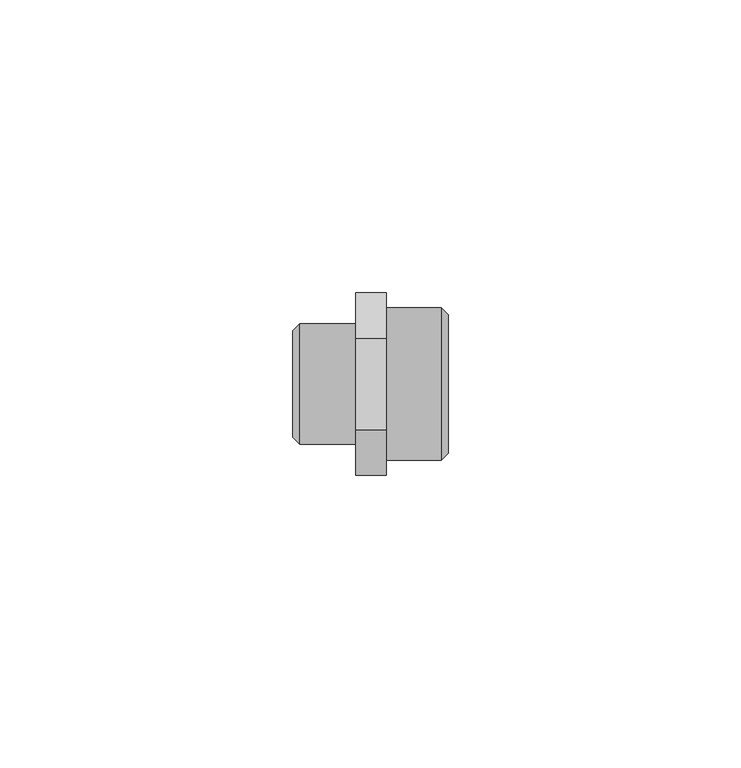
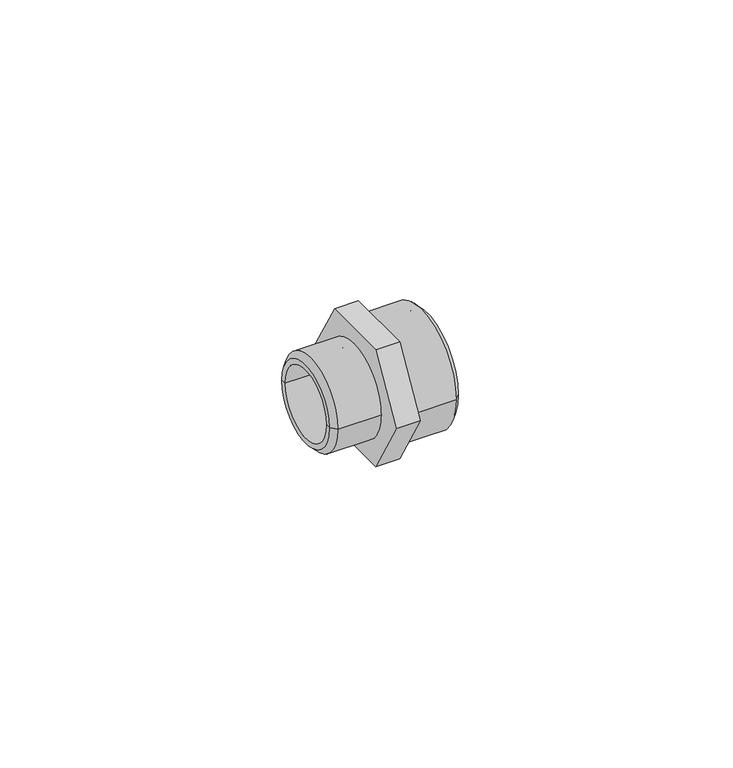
"""IFC4 building model written with IfcOpenShell, lengths in millimetres: pipe fitting geometry, Astra - Redução Macho - MR : Astra - Redução Macho - MR."""

from ifc_helpers import new_model, si_unit, frame, origin, place, context, project, spatial, polyline, circle_curve, outline, extrude, source, transform, mapped, element, save
from ifc_brep_helpers import plane_surface, cylinder_surface, revolved_surface, advanced_brep


def pipe_fitting_cd5acd92(model_context):
    return source(origin(), model_context, "Body", "SolidModel", [
        extrude(outline(polyline([(-15.5885, 0.0), (-7.7942714, 13.5), (7.7941859, 13.5), (15.5884145, 0.0), (7.7941859, -13.5), (-7.7942714, -13.5), (-15.5885, 0.0)])), frame((0.0, 0.0, 0.0), z_axis=(1.0, 0.0, 0.0), x_axis=(0.0, 1.0, 0.0)), (0.0, 0.0, 1.0), 5.2),
        advanced_brep(
        [(-9.6, -10.275, 0.0), (-9.6, 10.275, 0.0), (0.0, 10.275, 0.0), (0.0, -10.275, 0.0), (-10.8, -9.075, 0.0), (-10.8, 9.075, 0.0), (-10.8, -7.9, 0.0), (-10.8, 7.9, 0.0), (0.0, -7.9, 0.0), (0.0, 7.9, 0.0)],
        [
            (0, 1, circle_curve(frame((-9.6, 0.0, 0.0), z_axis=(1.0, 0.0, 0.0), x_axis=(0.0, 1.0, 0.0)), 10.275)),
            (1, 2),
            (2, 3, circle_curve(frame((0.0, 0.0, 0.0), z_axis=(-1.0, 0.0, 0.0), x_axis=(0.0, 1.0, 0.0)), 10.275)),
            (3, 0),
            (1, 0, circle_curve(frame((-9.6, 0.0, 0.0), z_axis=(1.0, 0.0, 0.0), x_axis=(0.0, 1.0, 0.0)), 10.275)),
            (3, 2, circle_curve(frame((0.0, 0.0, 0.0), z_axis=(-1.0, 0.0, 0.0), x_axis=(0.0, 1.0, 0.0)), 10.275)),
            (4, 5, circle_curve(frame((-10.8, 0.0, 0.0), z_axis=(1.0, 0.0, 0.0), x_axis=(0.0, 1.0, 0.0)), 9.075)),
            (5, 1),
            (0, 4),
            (5, 4, circle_curve(frame((-10.8, 0.0, 0.0), z_axis=(1.0, 0.0, 0.0), x_axis=(0.0, 1.0, 0.0)), 9.075)),
            (6, 7, circle_curve(frame((-10.8, 0.0, 0.0), z_axis=(1.0, 0.0, 0.0), x_axis=(0.0, 1.0, 0.0)), 7.9)),
            (7, 5),
            (4, 6),
            (7, 6, circle_curve(frame((-10.8, 0.0, 0.0), z_axis=(1.0, 0.0, 0.0), x_axis=(0.0, 1.0, 0.0)), 7.9)),
            (8, 9, circle_curve(frame((0.0, 0.0, 0.0), z_axis=(1.0, 0.0, 0.0), x_axis=(0.0, 1.0, 0.0)), 7.9)),
            (9, 7),
            (6, 8),
            (9, 8, circle_curve(frame((0.0, 0.0, 0.0), z_axis=(1.0, 0.0, 0.0), x_axis=(0.0, 1.0, 0.0)), 7.9)),
            (2, 9),
            (8, 3),
        ],
        [
            cylinder_surface(frame((-10.8, 0.0, 0.0), z_axis=(-1.0, 0.0, 0.0), x_axis=(0.0, 1.0, 0.0)), 10.275),
            revolved_surface(polyline([(-9.6, 10.275, 0.0), (-10.8, 9.075, 0.0)]), (-10.8, 0.0, 0.0), (-1.0, 0.0, 0.0)),
            plane_surface(frame((-10.8, 0.0, 0.0), z_axis=(-1.0, 0.0, 0.0), x_axis=(0.0, 1.0, 0.0))),
            revolved_surface(polyline([(-10.8, 7.9, 0.0), (0.0, 7.9, 0.0)]), (-10.8, 0.0, 0.0), (-1.0, 0.0, 0.0)),
            plane_surface(frame((0.0, 0.0, 0.0), z_axis=(1.0, 0.0, 0.0), x_axis=(0.0, 1.0, 0.0))),
        ],
        [
            (0, [[1, 2, 3, 4]]),
            (0, [[5, -4, 6, -2]]),
            (1, [[7, 8, -1, 9]]),
            (1, [[10, -9, -5, -8]]),
            (2, [[11, 12, -7, 13]]),
            (2, [[14, -13, -10, -12]]),
            (3, [[15, 16, -11, 17]]),
            (3, [[18, -17, -14, -16]]),
            (4, [[-3, 19, -15, 20]]),
            (4, [[-6, -20, -18, -19]]),
        ],
    ),
        advanced_brep(
        [(5.2, -13.0, 0.0), (5.2, 13.0, 0.0), (14.55, 13.0, 0.0), (14.55, -13.0, 0.0), (5.2, -10.5, 0.0), (5.2, 10.5, 0.0), (15.75, -10.5, 0.0), (15.75, 10.5, 0.0), (15.75, -11.8, 0.0), (15.75, 11.8, 0.0)],
        [
            (0, 1, circle_curve(frame((5.2, 0.0, 0.0), z_axis=(1.0, 0.0, 0.0), x_axis=(0.0, 1.0, 0.0)), 13.0)),
            (1, 2),
            (2, 3, circle_curve(frame((14.55, 0.0, 0.0), z_axis=(-1.0, 0.0, 0.0), x_axis=(0.0, 1.0, 0.0)), 13.0)),
            (3, 0),
            (1, 0, circle_curve(frame((5.2, 0.0, 0.0), z_axis=(1.0, 0.0, 0.0), x_axis=(0.0, 1.0, 0.0)), 13.0)),
            (3, 2, circle_curve(frame((14.55, 0.0, 0.0), z_axis=(-1.0, 0.0, 0.0), x_axis=(0.0, 1.0, 0.0)), 13.0)),
            (4, 5, circle_curve(frame((5.2, 0.0, 0.0), z_axis=(1.0, 0.0, 0.0), x_axis=(0.0, 1.0, 0.0)), 10.5)),
            (5, 1),
            (0, 4),
            (5, 4, circle_curve(frame((5.2, 0.0, 0.0), z_axis=(1.0, 0.0, 0.0), x_axis=(0.0, 1.0, 0.0)), 10.5)),
            (6, 7, circle_curve(frame((15.75, 0.0, 0.0), z_axis=(1.0, 0.0, 0.0), x_axis=(0.0, 1.0, 0.0)), 10.5)),
            (7, 5),
            (4, 6),
            (7, 6, circle_curve(frame((15.75, 0.0, 0.0), z_axis=(1.0, 0.0, 0.0), x_axis=(0.0, 1.0, 0.0)), 10.5)),
            (8, 9, circle_curve(frame((15.75, 0.0, 0.0), z_axis=(1.0, 0.0, 0.0), x_axis=(0.0, 1.0, 0.0)), 11.8)),
            (9, 7),
            (6, 8),
            (9, 8, circle_curve(frame((15.75, 0.0, 0.0), z_axis=(1.0, 0.0, 0.0), x_axis=(0.0, 1.0, 0.0)), 11.8)),
            (2, 9),
            (8, 3),
        ],
        [
            cylinder_surface(frame((-10.8, 0.0, 0.0), z_axis=(-1.0, 0.0, 0.0), x_axis=(0.0, 1.0, 0.0)), 13.0),
            plane_surface(frame((5.2, 0.0, 0.0), z_axis=(-1.0, 0.0, 0.0), x_axis=(0.0, 1.0, 0.0))),
            revolved_surface(polyline([(5.199999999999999, 10.5, 0.0), (15.75, 10.5, 0.0)]), (-10.8, 0.0, 0.0), (-1.0, 0.0, 0.0)),
            plane_surface(frame((15.75, 0.0, 0.0), z_axis=(1.0, 0.0, 0.0), x_axis=(0.0, 1.0, 0.0))),
            revolved_surface(polyline([(15.75, 11.8, 0.0), (14.55, 13.0, 0.0)]), (-10.8, 0.0, 0.0), (-1.0, 0.0, 0.0)),
        ],
        [
            (0, [[1, 2, 3, 4]]),
            (0, [[5, -4, 6, -2]]),
            (1, [[7, 8, -1, 9]]),
            (1, [[10, -9, -5, -8]]),
            (2, [[11, 12, -7, 13]]),
            (2, [[14, -13, -10, -12]]),
            (3, [[15, 16, -11, 17]]),
            (3, [[18, -17, -14, -16]]),
            (4, [[-3, 19, -15, 20]]),
            (4, [[-6, -20, -18, -19]]),
        ],
    ),
    ])


if __name__ == "__main__":
    model = new_model("IFC4")
    model_context = context("Model", 3, world=origin())
    ifc_project = project(units=[si_unit("LENGTHUNIT", "METRE", prefix="MILLI")], contexts=[model_context])
    site = spatial("IfcSite", under=ifc_project)
    building = spatial("IfcBuilding", under=site)
    placement = place(None, origin())
    pipe_fitting_shape = pipe_fitting_cd5acd92(model_context)
    element("IfcPipeFitting", 1, ObjectType="Astra - Redução Macho - MR : Astra - Redução Macho - MR", at=placement, inside=building, context=model_context, shape_type="MappedRepresentation", body=[
        mapped(pipe_fitting_shape, transform((0.0, 0.0, 0.0), x_axis=(1.0, 0.0, 0.0), y_axis=(0.0, 1.0, 0.0), z_axis=(0.0, 0.0, 1.0))),
    ])
    save(model, "model.ifc")
